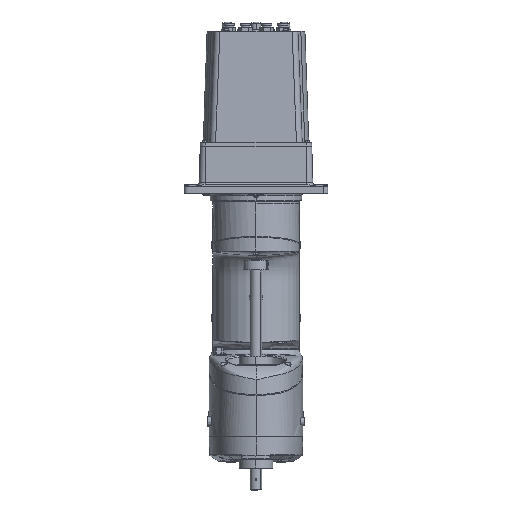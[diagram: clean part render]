
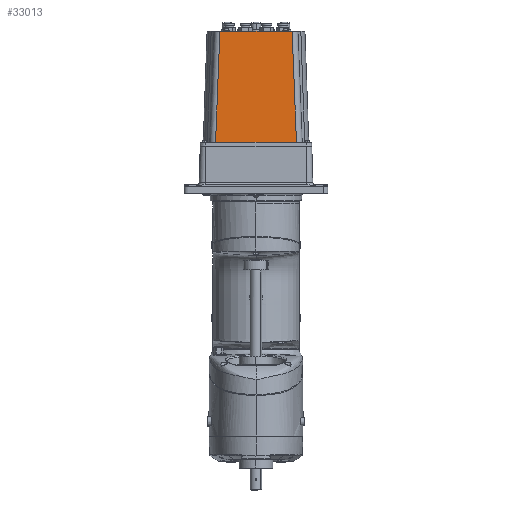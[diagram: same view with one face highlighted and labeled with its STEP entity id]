
A CAD part, left-side view. The second image highlights one B-rep face of the part: STEP entity #33013.
In plain terms, the highlighted planar face has unit normal (-0.999, 0, 0.035).
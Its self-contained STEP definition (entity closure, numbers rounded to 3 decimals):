
#19886 = EDGE_CURVE ( 'NONE', #89273, #77768, #55638, .T. ) ;
#25346 = VECTOR ( 'NONE', #80916, 1000. ) ;
#33013 = ADVANCED_FACE ( 'NONE', ( #65287 ), #49548, .T. ) ;
#39699 = ORIENTED_EDGE ( 'NONE', *, *, #19886, .F. ) ;
#43915 = CARTESIAN_POINT ( 'NONE',  ( -122.415, -100., 213. ) ) ;
#49548 = PLANE ( 'NONE',  #122346 ) ;
#51306 = CARTESIAN_POINT ( 'NONE',  ( -127.792, 0., 59. ) ) ;
#55638 = LINE ( 'NONE', #51306, #149811 ) ;
#58602 = VERTEX_POINT ( 'NONE', #65581 ) ;
#65287 = FACE_OUTER_BOUND ( 'NONE', #99930, .T. ) ;
#65581 = CARTESIAN_POINT ( 'NONE',  ( -122.415, -50.194, 213. ) ) ;
#74322 = DIRECTION ( 'NONE',  ( 0.035, 0., 0.999 ) ) ;
#76615 = LINE ( 'NONE', #138794, #135696 ) ;
#77768 = VERTEX_POINT ( 'NONE', #135591 ) ;
#80046 = DIRECTION ( 'NONE',  ( 0., 1., 0. ) ) ;
#80916 = DIRECTION ( 'NONE',  ( 0.035, 0.039, 0.999 ) ) ;
#84431 = LINE ( 'NONE', #92773, #25346 ) ;
#89273 = VERTEX_POINT ( 'NONE', #139802 ) ;
#92773 = CARTESIAN_POINT ( 'NONE',  ( -127.792, -56.167, 59. ) ) ;
#99930 = EDGE_LOOP ( 'NONE', ( #120270, #106253, #127316, #39699 ) ) ;
#106253 = ORIENTED_EDGE ( 'NONE', *, *, #125208, .T. ) ;
#109990 = VERTEX_POINT ( 'NONE', #137353 ) ;
#120270 = ORIENTED_EDGE ( 'NONE', *, *, #151359, .T. ) ;
#122346 = AXIS2_PLACEMENT_3D ( 'NONE', #133131, #144997, #74322 ) ;
#125208 = EDGE_CURVE ( 'NONE', #58602, #109990, #141579, .T. ) ;
#127316 = ORIENTED_EDGE ( 'NONE', *, *, #130404, .F. ) ;
#130404 = EDGE_CURVE ( 'NONE', #77768, #109990, #76615, .T. ) ;
#133131 = CARTESIAN_POINT ( 'NONE',  ( -127.998, -100., 53.105 ) ) ;
#133880 = DIRECTION ( 'NONE',  ( 0., 1., 0. ) ) ;
#135591 = CARTESIAN_POINT ( 'NONE',  ( -127.792, 56.167, 59. ) ) ;
#135696 = VECTOR ( 'NONE', #150648, 1000. ) ;
#137353 = CARTESIAN_POINT ( 'NONE',  ( -122.415, 50.194, 213. ) ) ;
#137901 = VECTOR ( 'NONE', #80046, 1000. ) ;
#138794 = CARTESIAN_POINT ( 'NONE',  ( -127.829, 56.208, 57.935 ) ) ;
#139802 = CARTESIAN_POINT ( 'NONE',  ( -127.792, -56.167, 59. ) ) ;
#141579 = LINE ( 'NONE', #43915, #137901 ) ;
#144997 = DIRECTION ( 'NONE',  ( -0.999, 0., 0.035 ) ) ;
#149811 = VECTOR ( 'NONE', #133880, 1000. ) ;
#150648 = DIRECTION ( 'NONE',  ( 0.035, -0.039, 0.999 ) ) ;
#151359 = EDGE_CURVE ( 'NONE', #89273, #58602, #84431, .T. ) ;
